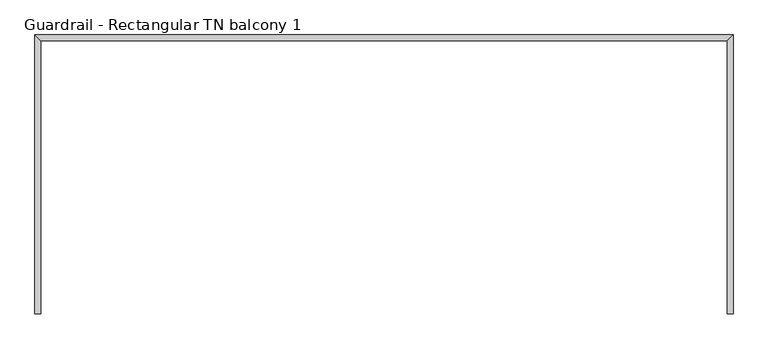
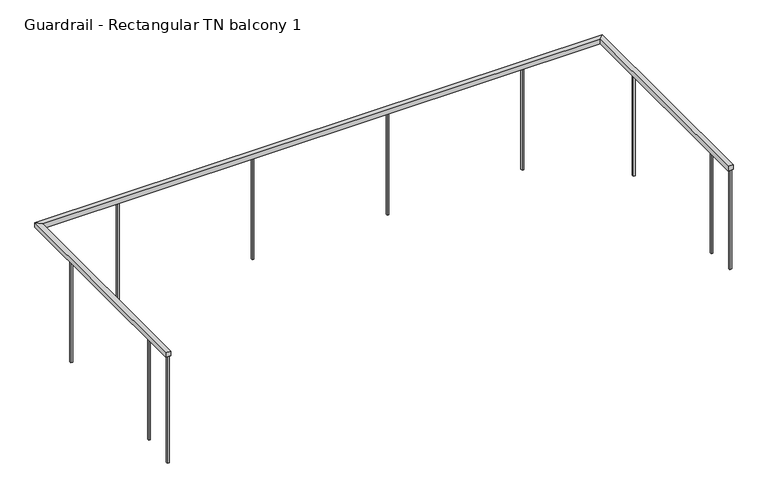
"""IFC4 building model written with IfcOpenShell, lengths in millimetres: railing geometry, Guardrail - Rectangular TN balcony 1."""

from ifc_helpers import new_model, si_unit, frame, origin, place, context, project, spatial, polyline, outline, extrude, faceted_brep, source, transform, mapped, element, save


def guardrail_rectangular_tn_balcony_1_09f7f64d(model_context):
    return source(origin(), model_context, "Body", "SolidModel", [
        faceted_brep([(-18849.3239276, -12596.8966791, 3666.8), (-18900.1239276, -12596.8966791, 3666.8), (-18900.1239276, -12596.8966791, 3616.0), (-18849.3239276, -12596.8966791, 3616.0), (-18849.3239276, -10246.0966791, 3666.8), (-18900.1239276, -10296.8966791, 3666.8), (-18900.1239276, -10296.8966791, 3616.0), (-18849.3239276, -10246.0966791, 3616.0), (-24736.4239276, -10246.0966791, 3666.8), (-24685.6239276, -10296.8966791, 3666.8), (-24685.6239276, -10296.8966791, 3616.0), (-24736.4239276, -10246.0966791, 3616.0), (-24736.4239276, -12596.8966791, 3666.8), (-24736.4239276, -12596.8966791, 3616.0), (-24685.6239276, -12596.8966791, 3616.0), (-24685.6239276, -12596.8966791, 3666.8)], [[[0, 1, 2, 3]], [[1, 0, 4, 5]], [[2, 1, 5, 6]], [[3, 2, 6, 7]], [[0, 3, 7, 4]], [[5, 4, 8, 9]], [[6, 5, 9, 10]], [[7, 6, 10, 11]], [[4, 7, 11, 8]], [[12, 13, 14, 15]], [[9, 8, 12, 15]], [[10, 9, 15, 14]], [[11, 10, 14, 13]], [[8, 11, 13, 12]]]),
        extrude(outline(polyline([(-24720.5489276, -12243.8216791), (-24701.4989276, -12243.8216791), (-24701.4989276, -12262.8716791), (-24720.5489276, -12262.8716791), (-24720.5489276, -12243.8216791)])), frame((0.0, 0.0, 2500.0), z_axis=(0.0, 0.0, 1.0), x_axis=(1.0, 0.0, 0.0)), (0.0, 0.0, 1.0), 1116.0),
        extrude(outline(polyline([(-24720.5489276, -10843.8216791), (-24701.4989276, -10843.8216791), (-24701.4989276, -10862.8716791), (-24720.5489276, -10862.8716791), (-24720.5489276, -10843.8216791)])), frame((0.0, 0.0, 2500.0), z_axis=(0.0, 0.0, 1.0), x_axis=(1.0, 0.0, 0.0)), (0.0, 0.0, 1.0), 1116.0),
        extrude(outline(polyline([(-23883.3489276, -10261.9716791), (-23883.3489276, -10281.0216791), (-23902.3989276, -10281.0216791), (-23902.3989276, -10261.9716791), (-23883.3489276, -10261.9716791)])), frame((0.0, 0.0, 2500.0), z_axis=(0.0, 0.0, 1.0), x_axis=(1.0, 0.0, 0.0)), (0.0, 0.0, 1.0), 1116.0),
        extrude(outline(polyline([(-22483.3489276, -10261.9716791), (-22483.3489276, -10281.0216791), (-22502.3989276, -10281.0216791), (-22502.3989276, -10261.9716791), (-22483.3489276, -10261.9716791)])), frame((0.0, 0.0, 2500.0), z_axis=(0.0, 0.0, 1.0), x_axis=(1.0, 0.0, 0.0)), (0.0, 0.0, 1.0), 1116.0),
        extrude(outline(polyline([(-21083.3489276, -10261.9716791), (-21083.3489276, -10281.0216791), (-21102.3989276, -10281.0216791), (-21102.3989276, -10261.9716791), (-21083.3489276, -10261.9716791)])), frame((0.0, 0.0, 2500.0), z_axis=(0.0, 0.0, 1.0), x_axis=(1.0, 0.0, 0.0)), (0.0, 0.0, 1.0), 1116.0),
        extrude(outline(polyline([(-19683.3489276, -10261.9716791), (-19683.3489276, -10281.0216791), (-19702.3989276, -10281.0216791), (-19702.3989276, -10261.9716791), (-19683.3489276, -10261.9716791)])), frame((0.0, 0.0, 2500.0), z_axis=(0.0, 0.0, 1.0), x_axis=(1.0, 0.0, 0.0)), (0.0, 0.0, 1.0), 1116.0),
        extrude(outline(polyline([(-18865.1989276, -10862.8716791), (-18884.2489276, -10862.8716791), (-18884.2489276, -10843.8216791), (-18865.1989276, -10843.8216791), (-18865.1989276, -10862.8716791)])), frame((0.0, 0.0, 2500.0), z_axis=(0.0, 0.0, 1.0), x_axis=(1.0, 0.0, 0.0)), (0.0, 0.0, 1.0), 1116.0),
        extrude(outline(polyline([(-18865.1989276, -12262.8716791), (-18884.2489276, -12262.8716791), (-18884.2489276, -12243.8216791), (-18865.1989276, -12243.8216791), (-18865.1989276, -12262.8716791)])), frame((0.0, 0.0, 2500.0), z_axis=(0.0, 0.0, 1.0), x_axis=(1.0, 0.0, 0.0)), (0.0, 0.0, 1.0), 1116.0),
        extrude(outline(polyline([(-24720.5489276, -12577.8716791), (-24701.4989276, -12577.8716791), (-24701.4989276, -12596.9216791), (-24720.5489276, -12596.9216791), (-24720.5489276, -12577.8716791)])), frame((0.0, 0.0, 2450.0), z_axis=(0.0, 0.0, 1.0), x_axis=(1.0, 0.0, 0.0)), (0.0, 0.0, 1.0), 1166.0),
        extrude(outline(polyline([(-18865.1989276, -12596.9216791), (-18884.2489276, -12596.9216791), (-18884.2489276, -12577.8716791), (-18865.1989276, -12577.8716791), (-18865.1989276, -12596.9216791)])), frame((0.0, 0.0, 2530.0), z_axis=(0.0, 0.0, 1.0), x_axis=(1.0, 0.0, 0.0)), (0.0, 0.0, 1.0), 1086.0),
    ])


if __name__ == "__main__":
    model = new_model("IFC4")
    model_context = context("Model", 3, world=origin())
    ifc_project = project(units=[si_unit("LENGTHUNIT", "METRE", prefix="MILLI")], contexts=[model_context])
    site = spatial("IfcSite", under=ifc_project)
    building = spatial("IfcBuilding", under=site)
    placement = place(None, origin())
    guardrail_rectangular_tn_balcony_1_shape = guardrail_rectangular_tn_balcony_1_09f7f64d(model_context)
    element("IfcRailing", 1, ObjectType="Guardrail - Rectangular TN balcony 1", at=placement, inside=building, context=model_context, shape_type="MappedRepresentation", body=[
        mapped(guardrail_rectangular_tn_balcony_1_shape, transform((0.0, 0.0, 0.0), x_axis=(1.0, 0.0, 0.0), y_axis=(0.0, 1.0, 0.0), z_axis=(0.0, 0.0, 1.0))),
    ])
    save(model, "model.ifc")
